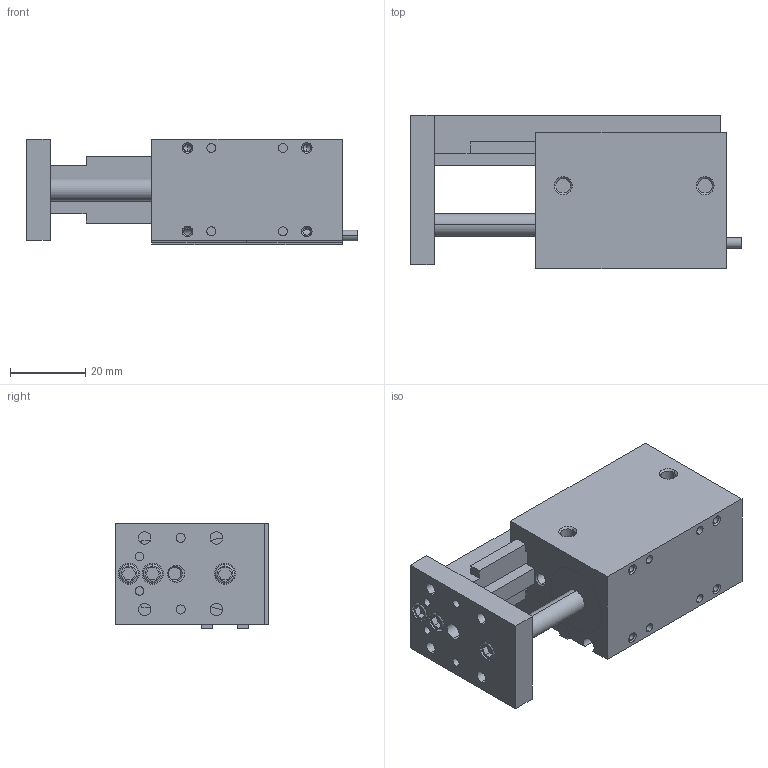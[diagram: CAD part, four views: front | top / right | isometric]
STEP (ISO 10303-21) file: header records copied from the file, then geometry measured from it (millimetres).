
FILE_DESCRIPTION (( 'STEP AP203' ), '1' );
FILE_NAME ('AGMS-2-2 EXTENDED in IN.STEP', '2014-11-06T15:46:28', ( 'setup' ), ( '' ), 'SwSTEP 2.0', 'SolidWorks 2013', '' );
FILE_SCHEMA (( 'CONFIG_CONTROL_DESIGN' ));
Length unit declared in the file: inch
Products named in the file (7): AGMS-2-2 SENSOR; AGMS-2-2 EXTENDED in IN; AGMS-2-2 BODY; AGMS-2-2 CUSHION; AGMS-2-2 RAIL; AGMS-2-2 TOOL PLATE; AGMS-2-2 PROD
Assembly tree (7 placements, depth 2):
  AGMS-2-2 EXTENDED in IN
    AGMS-2-2 BODY
    AGMS-2-2 CUSHION
    AGMS-2-2 RAIL
    AGMS-2-2 TOOL PLATE
    AGMS-2-2 PROD
    AGMS-2-2 SENSOR  x2
Bounding box: 88.15 x 40.84 x 28.2 mm (x, y, z)
Volume: 59923.8 mm3; surface area: 24211.6 mm2
Topology: 7 solids, 7 shells, 315 faces, 728 edges, 460 vertices
Faces by surface type: plane 135, cylinder 124, cone 48, torus 8
Entity records: 9054 total; most frequent: DIRECTION 1515, CARTESIAN_POINT 1493, ORIENTED_EDGE 1310, EDGE_CURVE 655, AXIS2_PLACEMENT_3D 572, VERTEX_POINT 420, VECTOR 371, LINE 371
